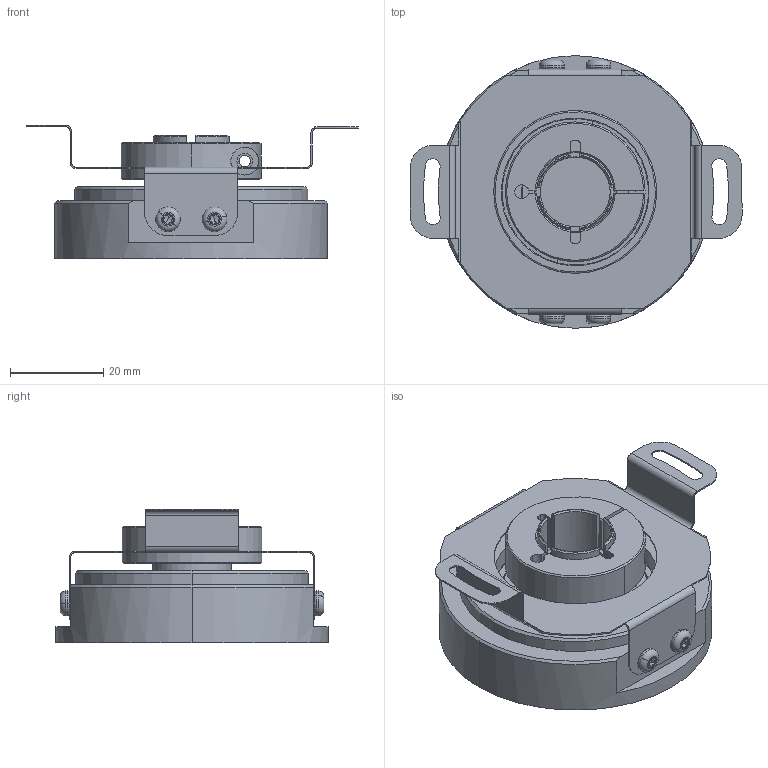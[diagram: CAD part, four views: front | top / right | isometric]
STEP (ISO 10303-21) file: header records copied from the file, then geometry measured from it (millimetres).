
FILE_DESCRIPTION (( 'STEP AP203' ), '1' );
FILE_NAME ('MCD-H150-Q5B-N.STEP', '2013-04-11T11:34:27', ( '' ), ( '' ), 'SwSTEP 2.0', 'SolidWorks 2006104', '' );
FILE_SCHEMA (( 'CONFIG_CONTROL_DESIGN' ));
Length unit declared in the file: millimetre
Products named in the file (1): MCD-H150-Q5B-N
Bounding box: 71.24 x 58.5 x 28.73 mm (x, y, z)
Surface area: 24632.5 mm2 (no closed solid volume)
Topology: 0 solids, 11 shells, 490 faces, 1238 edges, 783 vertices
Faces by surface type: cylinder 164, plane 141, cone 121, torus 60, bspline 4
Entity records: 16121 total; most frequent: CARTESIAN_POINT 4025, DIRECTION 2695, ORIENTED_EDGE 2444, EDGE_CURVE 1230, AXIS2_PLACEMENT_3D 1142, VERTEX_POINT 783, CIRCLE 655, EDGE_LOOP 545
